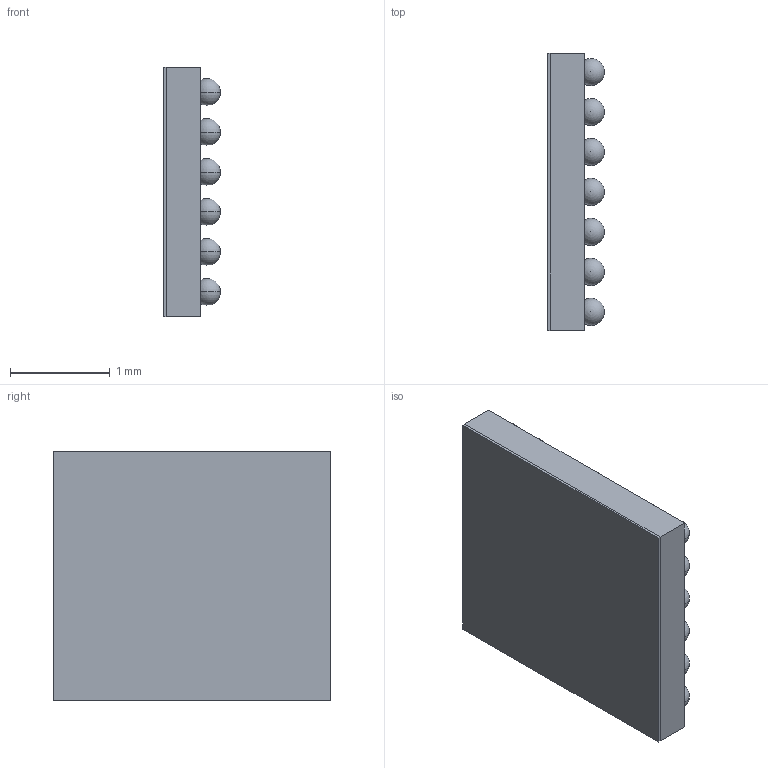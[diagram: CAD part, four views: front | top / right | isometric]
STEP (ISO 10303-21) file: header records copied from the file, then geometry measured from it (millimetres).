
FILE_DESCRIPTION (( 'STEP AP214' ), '1' );
FILE_NAME ('AS7058-BWLM.STEP', '2025-06-19T08:10:01', ( '' ), ( '' ), 'SwSTEP 2.0', 'SolidWorks 2024', '' );
FILE_SCHEMA (( 'AUTOMOTIVE_DESIGN' ));
Length unit declared in the file: millimetre
Products named in the file (1): AS7058-BWLM
Bounding box: 0.57 x 2.77 x 2.5 mm (x, y, z)
Volume: 2.9 mm3; surface area: 36.9 mm2
Topology: 2 solids, 2 shells, 96 faces, 402 edges, 268 vertices
Faces by surface type: sphere 84, plane 12
Entity records: 2824 total; most frequent: DIRECTION 554, CARTESIAN_POINT 431, ORIENTED_EDGE 384, AXIS2_PLACEMENT_3D 265, EDGE_CURVE 192, CIRCLE 168, VERTEX_POINT 142, EDGE_LOOP 138
